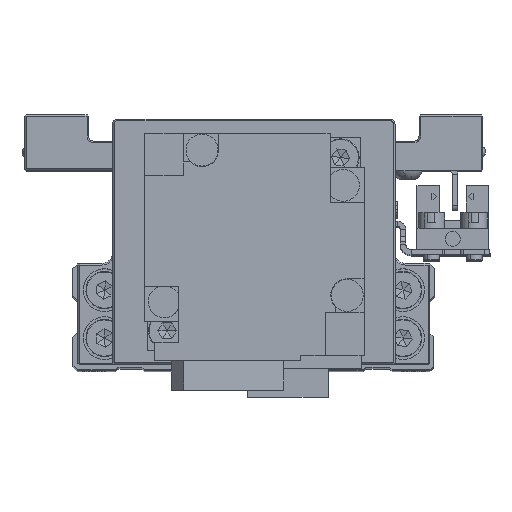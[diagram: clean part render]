
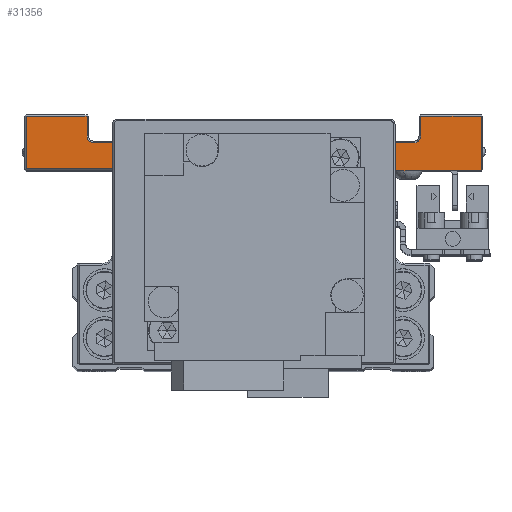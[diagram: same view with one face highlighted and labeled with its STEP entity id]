
A CAD part, top view. The second image highlights one B-rep face of the part: STEP entity #31356.
In plain terms, the highlighted planar face has unit normal (0, 0, 1) as drawn and (1, 0, 0) by its records, which use the part's own axes.
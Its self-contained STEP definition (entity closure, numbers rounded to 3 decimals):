
#413 = EDGE_CURVE ( 'NONE', #3182, #31541, #33096, .T. ) ;
#863 = EDGE_CURVE ( 'NONE', #33111, #6660, #14600, .T. ) ;
#1348 = DIRECTION ( 'NONE',  ( -1., 0., 0. ) ) ;
#1427 = DIRECTION ( 'NONE',  ( 0., -1., 0. ) ) ;
#2501 = VECTOR ( 'NONE', #8017, 1000. ) ;
#3182 = VERTEX_POINT ( 'NONE', #30044 ) ;
#3304 = VERTEX_POINT ( 'NONE', #25548 ) ;
#3312 = CARTESIAN_POINT ( 'NONE',  ( 45., 7.5, -19.7 ) ) ;
#3341 = VERTEX_POINT ( 'NONE', #28311 ) ;
#3768 = CARTESIAN_POINT ( 'NONE',  ( 45., 17.7, -20. ) ) ;
#3932 = FACE_OUTER_BOUND ( 'NONE', #19100, .T. ) ;
#3943 = CARTESIAN_POINT ( 'NONE',  ( 45., 14., -30. ) ) ;
#3994 = EDGE_CURVE ( 'NONE', #32230, #3182, #18724, .T. ) ;
#4273 = CARTESIAN_POINT ( 'NONE',  ( 45., 7.5, -31.3 ) ) ;
#4527 = EDGE_CURVE ( 'NONE', #6116, #3341, #11377, .T. ) ;
#5212 = AXIS2_PLACEMENT_3D ( 'NONE', #25045, #1348, #11946 ) ;
#5545 = DIRECTION ( 'NONE',  ( 0., 1., 0. ) ) ;
#6116 = VERTEX_POINT ( 'NONE', #33654 ) ;
#6360 = LINE ( 'NONE', #16938, #19420 ) ;
#6625 = CARTESIAN_POINT ( 'NONE',  ( 45., 14., -31.3 ) ) ;
#6660 = VERTEX_POINT ( 'NONE', #31852 ) ;
#6718 = LINE ( 'NONE', #17300, #32804 ) ;
#7746 = DIRECTION ( 'NONE',  ( 0., 0., -1. ) ) ;
#8017 = DIRECTION ( 'NONE',  ( 0., 0., -1. ) ) ;
#8215 = CARTESIAN_POINT ( 'NONE',  ( 45., 17.7, -42.7 ) ) ;
#8842 = VECTOR ( 'NONE', #5545, 1000. ) ;
#9084 = AXIS2_PLACEMENT_3D ( 'NONE', #3943, #14539, #25059 ) ;
#9429 = CARTESIAN_POINT ( 'NONE',  ( 45., 17.7, -20. ) ) ;
#9615 = ORIENTED_EDGE ( 'NONE', *, *, #12723, .T. ) ;
#9981 = DIRECTION ( 'NONE',  ( 0., 0., 1. ) ) ;
#11181 = EDGE_CURVE ( 'NONE', #31541, #25343, #6360, .T. ) ;
#11339 = LINE ( 'NONE', #21881, #16778 ) ;
#11377 = LINE ( 'NONE', #21911, #16085 ) ;
#11688 = ORIENTED_EDGE ( 'NONE', *, *, #13268, .T. ) ;
#11732 = CARTESIAN_POINT ( 'NONE',  ( 45., 7.8, 42.7 ) ) ;
#11946 = DIRECTION ( 'NONE',  ( 0., 0., 1. ) ) ;
#12187 = VERTEX_POINT ( 'NONE', #8215 ) ;
#12375 = VECTOR ( 'NONE', #14853, 1000. ) ;
#12723 = EDGE_CURVE ( 'NONE', #3304, #29606, #27010, .T. ) ;
#12983 = CARTESIAN_POINT ( 'NONE',  ( 45., 17.7, 42.7 ) ) ;
#13268 = EDGE_CURVE ( 'NONE', #12187, #22542, #27467, .T. ) ;
#13905 = DIRECTION ( 'NONE',  ( 0., 1., 0. ) ) ;
#14218 = CARTESIAN_POINT ( 'NONE',  ( 45., 7.5, -42.7 ) ) ;
#14361 = DIRECTION ( 'NONE',  ( 0., 0., 1. ) ) ;
#14524 = PLANE ( 'NONE',  #5212 ) ;
#14539 = DIRECTION ( 'NONE',  ( -1., 0., 0. ) ) ;
#14593 = ORIENTED_EDGE ( 'NONE', *, *, #29087, .T. ) ;
#14600 = LINE ( 'NONE', #25126, #20788 ) ;
#14612 = VERTEX_POINT ( 'NONE', #6625 ) ;
#14664 = AXIS2_PLACEMENT_3D ( 'NONE', #23119, #33645, #9981 ) ;
#14786 = EDGE_CURVE ( 'NONE', #29606, #24831, #21174, .T. ) ;
#14853 = DIRECTION ( 'NONE',  ( 0., -1., 0. ) ) ;
#15188 = ORIENTED_EDGE ( 'NONE', *, *, #14786, .T. ) ;
#15682 = ORIENTED_EDGE ( 'NONE', *, *, #11181, .T. ) ;
#15689 = ORIENTED_EDGE ( 'NONE', *, *, #413, .T. ) ;
#16085 = VECTOR ( 'NONE', #32419, 1000. ) ;
#16498 = ORIENTED_EDGE ( 'NONE', *, *, #863, .T. ) ;
#16778 = VECTOR ( 'NONE', #32389, 1000. ) ;
#16927 = CARTESIAN_POINT ( 'NONE',  ( 45., 7.8, 19.7 ) ) ;
#16938 = CARTESIAN_POINT ( 'NONE',  ( 45., 7.5, 42.7 ) ) ;
#16994 = CARTESIAN_POINT ( 'NONE',  ( 45., 14., 31.3 ) ) ;
#17285 = EDGE_CURVE ( 'NONE', #22542, #14612, #27960, .T. ) ;
#17300 = CARTESIAN_POINT ( 'NONE',  ( 45., 7.5, -42.7 ) ) ;
#18724 = LINE ( 'NONE', #29228, #8842 ) ;
#19100 = EDGE_LOOP ( 'NONE', ( #9615, #15188, #31366, #11688, #33736, #23200, #21400, #26711, #23613, #15689, #15682, #14593, #16498, #23253 ) ) ;
#19420 = VECTOR ( 'NONE', #27443, 1000. ) ;
#19991 = DIRECTION ( 'NONE',  ( 0., 0., 1. ) ) ;
#20735 = VECTOR ( 'NONE', #19991, 1000. ) ;
#20788 = VECTOR ( 'NONE', #1427, 1000. ) ;
#20928 = LINE ( 'NONE', #31434, #29958 ) ;
#21174 = LINE ( 'NONE', #31699, #2501 ) ;
#21400 = ORIENTED_EDGE ( 'NONE', *, *, #4527, .T. ) ;
#21881 = CARTESIAN_POINT ( 'NONE',  ( 45., 7.8, 20. ) ) ;
#21911 = CARTESIAN_POINT ( 'NONE',  ( 45., 12.7, 30. ) ) ;
#22145 = CARTESIAN_POINT ( 'NONE',  ( 45., 7.5, -19.7 ) ) ;
#22542 = VERTEX_POINT ( 'NONE', #32408 ) ;
#23119 = CARTESIAN_POINT ( 'NONE',  ( 45., 14., 30. ) ) ;
#23200 = ORIENTED_EDGE ( 'NONE', *, *, #26515, .T. ) ;
#23253 = ORIENTED_EDGE ( 'NONE', *, *, #34184, .T. ) ;
#23613 = ORIENTED_EDGE ( 'NONE', *, *, #3994, .T. ) ;
#23953 = VECTOR ( 'NONE', #14361, 1000. ) ;
#24001 = CIRCLE ( 'NONE', #9084, 1.3 ) ;
#24467 = VECTOR ( 'NONE', #13905, 1000. ) ;
#24831 = VERTEX_POINT ( 'NONE', #14218 ) ;
#25045 = CARTESIAN_POINT ( 'NONE',  ( 45., 7.5, -20. ) ) ;
#25059 = DIRECTION ( 'NONE',  ( 0., 0., 1. ) ) ;
#25126 = CARTESIAN_POINT ( 'NONE',  ( 45., 7.5, 19.7 ) ) ;
#25128 = CIRCLE ( 'NONE', #14664, 1.3 ) ;
#25343 = VERTEX_POINT ( 'NONE', #11732 ) ;
#25548 = CARTESIAN_POINT ( 'NONE',  ( 45., -8.2, -19.7 ) ) ;
#26515 = EDGE_CURVE ( 'NONE', #14612, #6116, #24001, .T. ) ;
#26532 = EDGE_CURVE ( 'NONE', #24831, #12187, #6718, .T. ) ;
#26711 = ORIENTED_EDGE ( 'NONE', *, *, #27088, .T. ) ;
#27010 = LINE ( 'NONE', #3312, #24467 ) ;
#27088 = EDGE_CURVE ( 'NONE', #3341, #32230, #25128, .T. ) ;
#27443 = DIRECTION ( 'NONE',  ( 0., -1., 0. ) ) ;
#27467 = LINE ( 'NONE', #3768, #23953 ) ;
#27813 = DIRECTION ( 'NONE',  ( 0., 1., 0. ) ) ;
#27960 = LINE ( 'NONE', #4273, #12375 ) ;
#28311 = CARTESIAN_POINT ( 'NONE',  ( 45., 12.7, 30. ) ) ;
#29087 = EDGE_CURVE ( 'NONE', #25343, #33111, #11339, .T. ) ;
#29228 = CARTESIAN_POINT ( 'NONE',  ( 45., 7.5, 31.3 ) ) ;
#29606 = VERTEX_POINT ( 'NONE', #22145 ) ;
#29958 = VECTOR ( 'NONE', #7746, 1000. ) ;
#30044 = CARTESIAN_POINT ( 'NONE',  ( 45., 17.7, 31.3 ) ) ;
#31356 = ADVANCED_FACE ( 'NONE', ( #3932 ), #14524, .F. ) ;
#31366 = ORIENTED_EDGE ( 'NONE', *, *, #26532, .T. ) ;
#31434 = CARTESIAN_POINT ( 'NONE',  ( 45., -8.2, -20. ) ) ;
#31541 = VERTEX_POINT ( 'NONE', #12983 ) ;
#31699 = CARTESIAN_POINT ( 'NONE',  ( 45., 7.5, 43. ) ) ;
#31852 = CARTESIAN_POINT ( 'NONE',  ( 45., -8.2, 19.7 ) ) ;
#32230 = VERTEX_POINT ( 'NONE', #16994 ) ;
#32389 = DIRECTION ( 'NONE',  ( 0., 0., -1. ) ) ;
#32408 = CARTESIAN_POINT ( 'NONE',  ( 45., 17.7, -31.3 ) ) ;
#32419 = DIRECTION ( 'NONE',  ( 0., 0., 1. ) ) ;
#32804 = VECTOR ( 'NONE', #27813, 1000. ) ;
#33096 = LINE ( 'NONE', #9429, #20735 ) ;
#33111 = VERTEX_POINT ( 'NONE', #16927 ) ;
#33645 = DIRECTION ( 'NONE',  ( -1., 0., 0. ) ) ;
#33654 = CARTESIAN_POINT ( 'NONE',  ( 45., 12.7, -30. ) ) ;
#33736 = ORIENTED_EDGE ( 'NONE', *, *, #17285, .T. ) ;
#34184 = EDGE_CURVE ( 'NONE', #6660, #3304, #20928, .T. ) ;
